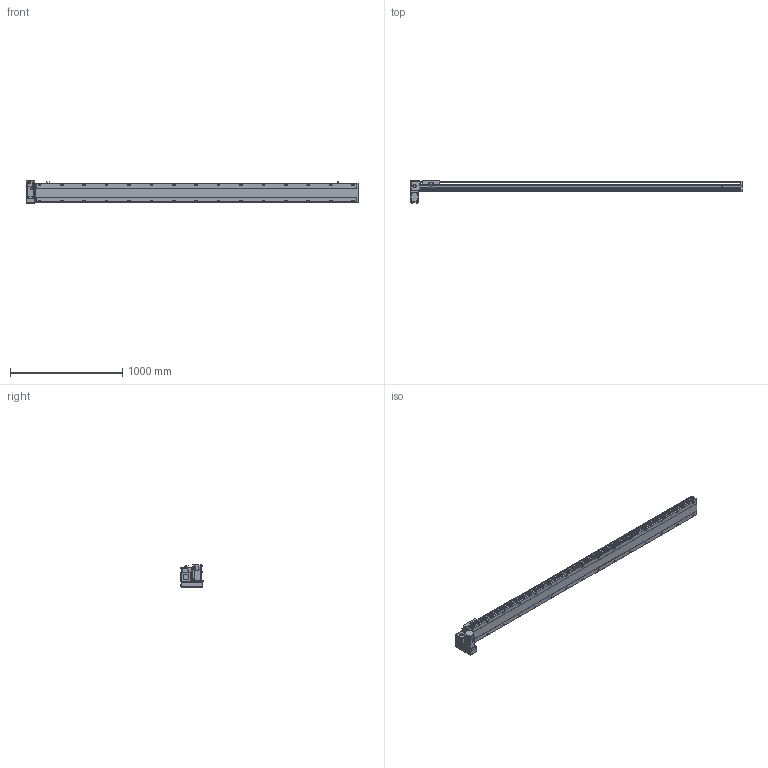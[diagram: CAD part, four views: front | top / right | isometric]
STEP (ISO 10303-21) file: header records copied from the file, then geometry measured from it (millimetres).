
FILE_DESCRIPTION( ( 'STEP AP214' ), '1' );
FILE_NAME( 'x:/temp/worker_4/temp/exporttempdir_2248_363_zhozc/format_0/PBS170-P40-S2600-LD-T75-C1-N(0).stp', '2022-06-07T07:56:28', ( 'License CC BY-ND 4.0' ), ( 'CADENAS' ), ' ', 'PARTsolutions', ' ' );
FILE_SCHEMA( ( 'AUTOMOTIVE_DESIGN { 1 0 10303 214 1 1 1 1 }' ) );
Length unit declared in the file: millimetre
Products named in the file (7): PBS170-P40-S2600-LD-T75-C1-N(0); _PBS170-S2600()_body; _PBS170T-LD_motors; _T75-p1; _PBS170_sliser; _PBS170_plant; _PBS170_sensor
Assembly tree (8 placements, depth 2):
  PBS170-P40-S2600-LD-T75-C1-N(0)
    _PBS170-S2600()_body
    _PBS170T-LD_motors
    _T75-p1
    _PBS170_sliser
    _PBS170_plant
    _PBS170_sensor  x3
Bounding box: 2963 x 201 x 197.3 mm (x, y, z)
Volume: 22393145.3 mm3; surface area: 2814760.4 mm2
Topology: 8 solids, 8 shells, 1194 faces, 3155 edges, 2056 vertices
Faces by surface type: plane 729, cylinder 395, cone 60, sphere 8, torus 2
Full cylindrical faces by diameter (mm): 3.242 x4, 4 x2, 4.4 x4, 4.5 x6, 4.917 x4, 6 x9, 6.647 x38, 7 x2, 7.5 x4, 8 x8, 8.5 x30, 10 x4, 10.5 x30, 11 x2, 30 x2, 40 x1, 70 x1
Entity records: 44234 total; most frequent: CARTESIAN_POINT 7397, DIRECTION 5790, ORIENTED_EDGE 5448, EDGE_CURVE 2724, AXIS2_PLACEMENT_3D 2047, VERTEX_POINT 1898, LINE 1696, VECTOR 1696
